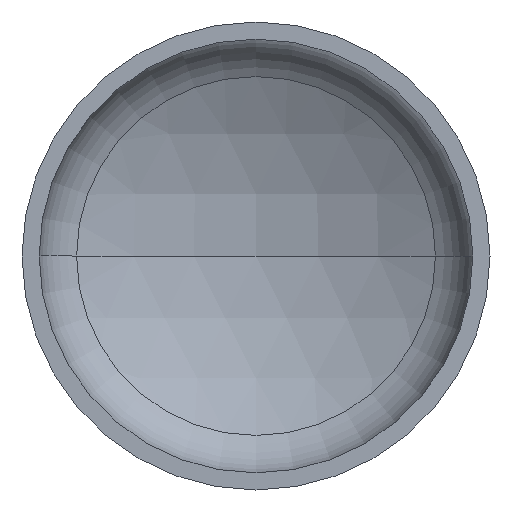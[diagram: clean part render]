
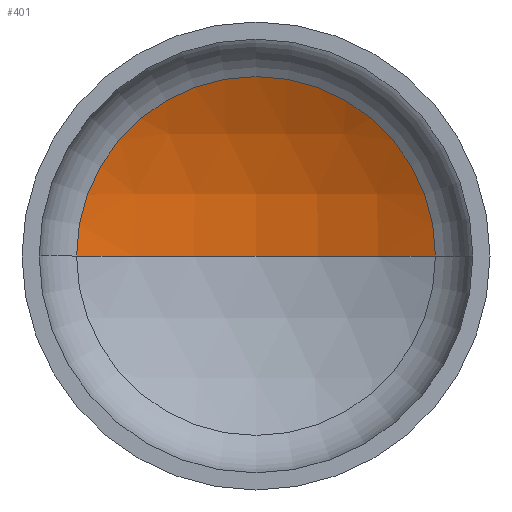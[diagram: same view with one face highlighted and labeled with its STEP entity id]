
A CAD part, front view. The second image highlights one B-rep face of the part: STEP entity #401.
In plain terms, the highlighted spherical face has radius 218 mm.
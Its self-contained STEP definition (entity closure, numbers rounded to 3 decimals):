
#12 = CIRCLE ( 'NONE', #14, 104.665 ) ;
#14 = AXIS2_PLACEMENT_3D ( 'NONE', #238, #152, #67 ) ;
#27 = ORIENTED_EDGE ( 'NONE', *, *, #382, .F. ) ;
#32 = AXIS2_PLACEMENT_3D ( 'NONE', #340, #158, #371 ) ;
#67 = DIRECTION ( 'NONE',  ( 1., 0., 0. ) ) ;
#86 = FACE_OUTER_BOUND ( 'NONE', #120, .T. ) ;
#99 = CARTESIAN_POINT ( 'NONE',  ( -104.665, 66.843, 0. ) ) ;
#106 = DIRECTION ( 'NONE',  ( -1., 0., 0. ) ) ;
#117 = AXIS2_PLACEMENT_3D ( 'NONE', #128, #305, #106 ) ;
#120 = EDGE_LOOP ( 'NONE', ( #27, #236, #186 ) ) ;
#128 = CARTESIAN_POINT ( 'NONE',  ( 0., -124.388, 0. ) ) ;
#130 = DIRECTION ( 'NONE',  ( 0., 0., -1. ) ) ;
#152 = DIRECTION ( 'NONE',  ( 0., -1., 0. ) ) ;
#158 = DIRECTION ( 'NONE',  ( 0., 0., 1. ) ) ;
#173 = CARTESIAN_POINT ( 'NONE',  ( 104.665, 66.843, 0. ) ) ;
#180 = CIRCLE ( 'NONE', #32, 218. ) ;
#186 = ORIENTED_EDGE ( 'NONE', *, *, #349, .T. ) ;
#217 = VERTEX_POINT ( 'NONE', #173 ) ;
#226 = CARTESIAN_POINT ( 'NONE',  ( 0., -124.388, 0. ) ) ;
#236 = ORIENTED_EDGE ( 'NONE', *, *, #368, .T. ) ;
#238 = CARTESIAN_POINT ( 'NONE',  ( 0., 66.843, 0. ) ) ;
#243 = SPHERICAL_SURFACE ( 'NONE', #117, 218. ) ;
#305 = DIRECTION ( 'NONE',  ( 0., 0., -1. ) ) ;
#307 = CARTESIAN_POINT ( 'NONE',  ( 0., 93.612, 0. ) ) ;
#340 = CARTESIAN_POINT ( 'NONE',  ( 0., -124.388, 0. ) ) ;
#344 = DIRECTION ( 'NONE',  ( -1., 0., 0. ) ) ;
#347 = CIRCLE ( 'NONE', #411, 218. ) ;
#349 = EDGE_CURVE ( 'NONE', #217, #396, #12, .T. ) ;
#368 = EDGE_CURVE ( 'NONE', #387, #217, #347, .T. ) ;
#371 = DIRECTION ( 'NONE',  ( 1., 0., 0. ) ) ;
#382 = EDGE_CURVE ( 'NONE', #387, #396, #180, .T. ) ;
#387 = VERTEX_POINT ( 'NONE', #307 ) ;
#396 = VERTEX_POINT ( 'NONE', #99 ) ;
#401 = ADVANCED_FACE ( 'NONE', ( #86 ), #243, .F. ) ;
#411 = AXIS2_PLACEMENT_3D ( 'NONE', #226, #130, #344 ) ;
